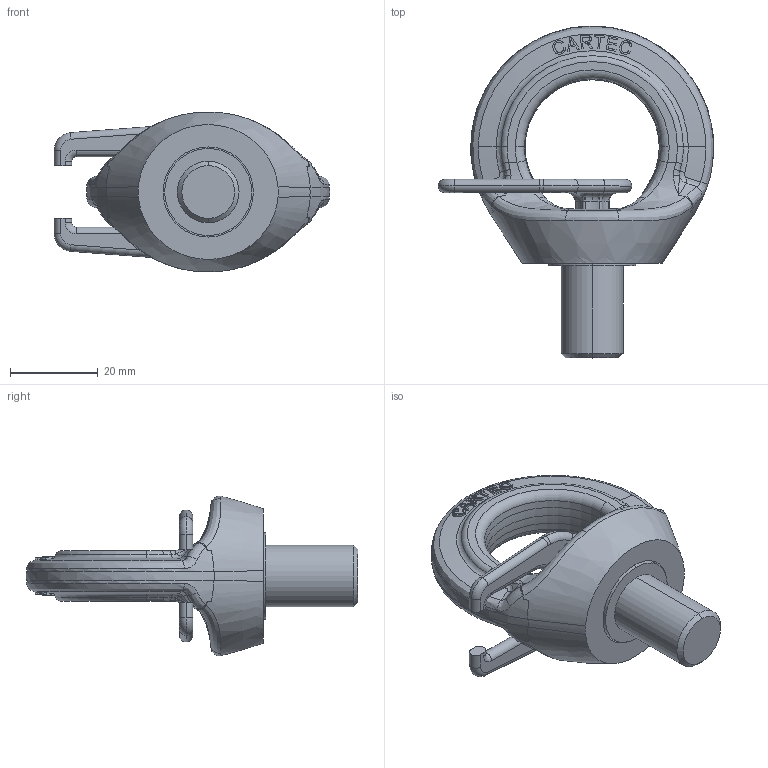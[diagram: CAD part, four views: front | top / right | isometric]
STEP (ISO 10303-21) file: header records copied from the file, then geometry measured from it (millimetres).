
FILE_DESCRIPTION(('STEP AP214'),'1');
FILE_NAME('c807ht14.stp','2017-03-27T13:24:37',('TraceParts'),('TraceParts S.A.'),'Spatial InterOp 3D',' ',' ');
FILE_SCHEMA(('automotive_design'));
Length unit declared in the file: millimetre
Products named in the file (3): c807ht14_1; c807ht14_2; c807ht14_3
Bounding box: 62.63 x 75.46 x 36.32 mm (x, y, z)
Volume: 29122.2 mm3; surface area: 12246.4 mm2
Topology: 3 solids, 3 shells, 403 faces, 1053 edges, 664 vertices
Faces by surface type: bspline 139, plane 121, torus 68, cylinder 55, cone 20
Entity records: 24524 total; most frequent: CARTESIAN_POINT 12088, ORIENTED_EDGE 2088, DIRECTION 1694, EDGE_CURVE 1044, AXIS2_PLACEMENT_3D 667, VERTEX_POINT 664, EDGE_LOOP 424, STYLED_ITEM 406
